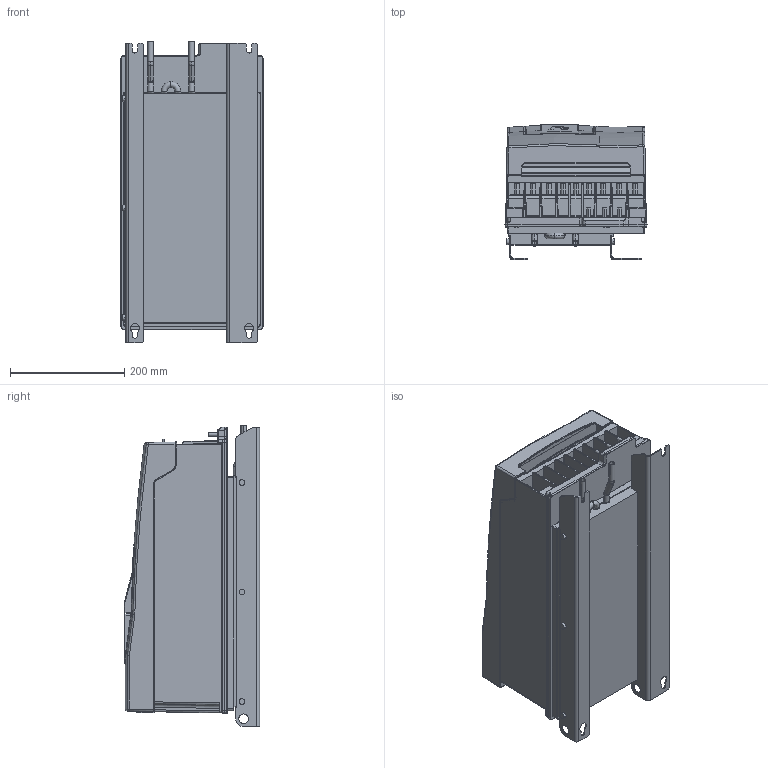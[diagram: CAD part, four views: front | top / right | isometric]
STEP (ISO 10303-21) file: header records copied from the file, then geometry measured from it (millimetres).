
FILE_DESCRIPTION (( 'STEP AP214' ), '1' );
FILE_NAME ('F6-6TW0-P150.STEP', '2020-12-09T12:45:23', ( '' ), ( '' ), 'SwSTEP 2.0', 'SolidWorks 2019', '' );
FILE_SCHEMA (( 'AUTOMOTIVE_DESIGN' ));
Length unit declared in the file: millimetre
Products named in the file (11): 10059765_000; 10061793_000_Deckelbaugruppe F6-6 (Kundenmodell); 10059762_000_Kundenmodell mit Geberbuchsen; 10060787_000; 10061956_000; 10051076_000_Kundenmodell; 10059764_000_Blindabdeckung (Kundenmodell); 10027052_000_Geh„usebaugruppe F6-6 (Kundenmodell); F6-6TW0-P150; 10061794_000; 10046074_000_Leistungsteil F6-6 TW0 (Kundenmodell)
Assembly tree (10 placements, depth 4):
  F6-6TW0-P150
    10046074_000_Leistungsteil F6-6 TW0 (Kundenmodell)
      10061956_000
    10027052_000_Geh„usebaugruppe F6-6 (Kundenmodell)
      10061793_000_Deckelbaugruppe F6-6 (Kundenmodell)
        10061794_000
      10060787_000
    10051076_000_Kundenmodell
      10059764_000_Blindabdeckung (Kundenmodell)
        10059765_000
      10059762_000_Kundenmodell mit Geberbuchsen
Bounding box: 249 x 236.9 x 528.7 mm (x, y, z)
Volume: 20529537.7 mm3; surface area: 1349568.2 mm2
Topology: 12 solids, 23 shells, 2973 faces, 7643 edges, 4633 vertices
Faces by surface type: plane 1033, cylinder 1016, bspline 584, torus 150, sphere 111, cone 79
Entity records: 102800 total; most frequent: CARTESIAN_POINT 35814, ORIENTED_EDGE 14990, DIRECTION 12793, EDGE_CURVE 7495, VERTEX_POINT 4631, AXIS2_PLACEMENT_3D 4584, LINE 3625, VECTOR 3625
